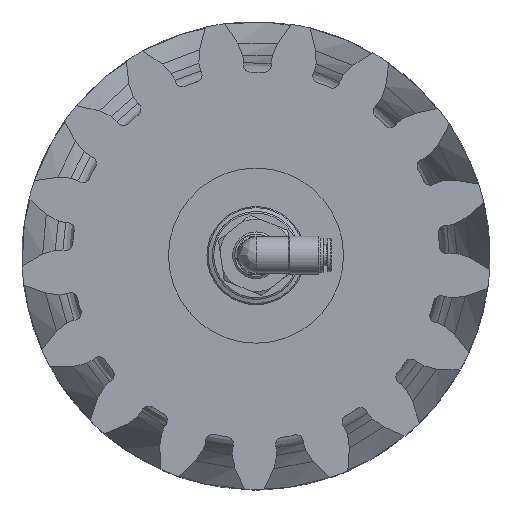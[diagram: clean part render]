
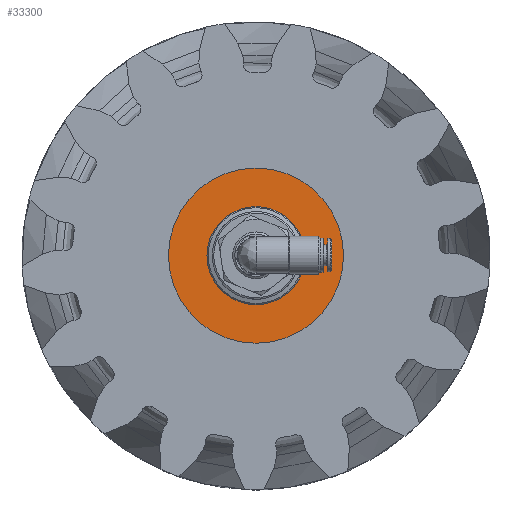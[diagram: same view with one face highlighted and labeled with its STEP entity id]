
A CAD part, top view. The second image highlights one B-rep face of the part: STEP entity #33300.
In plain terms, the highlighted planar face has unit normal (0, 0, 1) as drawn and (0, 1, 0) by its records, which use the part's own axes.
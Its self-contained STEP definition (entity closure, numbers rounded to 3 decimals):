
#1593 = AXIS2_PLACEMENT_3D ( 'NONE', #38475, #9784, #9143 ) ;
#5724 = DIRECTION ( 'NONE',  ( 0., 1., 0. ) ) ;
#6092 = DIRECTION ( 'NONE',  ( 0., 1., 0. ) ) ;
#8116 = EDGE_LOOP ( 'NONE', ( #37838 ) ) ;
#9143 = DIRECTION ( 'NONE',  ( 0., 0., -1. ) ) ;
#9699 = AXIS2_PLACEMENT_3D ( 'NONE', #18138, #6092, #25432 ) ;
#9784 = DIRECTION ( 'NONE',  ( 0., -1., 0. ) ) ;
#11266 = EDGE_CURVE ( 'NONE', #62309, #62309, #16918, .T. ) ;
#13674 = PLANE ( 'NONE',  #1593 ) ;
#14635 = FACE_BOUND ( 'NONE', #51925, .T. ) ;
#16032 = CARTESIAN_POINT ( 'NONE',  ( 0., 0.6, 0. ) ) ;
#16918 = CIRCLE ( 'NONE', #9699, 30. ) ;
#18138 = CARTESIAN_POINT ( 'NONE',  ( 0., 0.6, 0. ) ) ;
#18192 = CARTESIAN_POINT ( 'NONE',  ( 0., 0.6, 30. ) ) ;
#18833 = FACE_OUTER_BOUND ( 'NONE', #8116, .T. ) ;
#22442 = AXIS2_PLACEMENT_3D ( 'NONE', #16032, #5724, #39566 ) ;
#25432 = DIRECTION ( 'NONE',  ( 0., 0., 1. ) ) ;
#25553 = CIRCLE ( 'NONE', #22442, 16.8 ) ;
#33300 = ADVANCED_FACE ( 'NONE', ( #14635, #18833 ), #13674, .F. ) ;
#37838 = ORIENTED_EDGE ( 'NONE', *, *, #11266, .T. ) ;
#38475 = CARTESIAN_POINT ( 'NONE',  ( 30., 0.6, 0. ) ) ;
#39566 = DIRECTION ( 'NONE',  ( 0., 0., 1. ) ) ;
#51925 = EDGE_LOOP ( 'NONE', ( #57745 ) ) ;
#53644 = EDGE_CURVE ( 'NONE', #54864, #54864, #25553, .T. ) ;
#54864 = VERTEX_POINT ( 'NONE', #55178 ) ;
#55178 = CARTESIAN_POINT ( 'NONE',  ( 0., 0.6, 16.8 ) ) ;
#57745 = ORIENTED_EDGE ( 'NONE', *, *, #53644, .F. ) ;
#62309 = VERTEX_POINT ( 'NONE', #18192 ) ;
